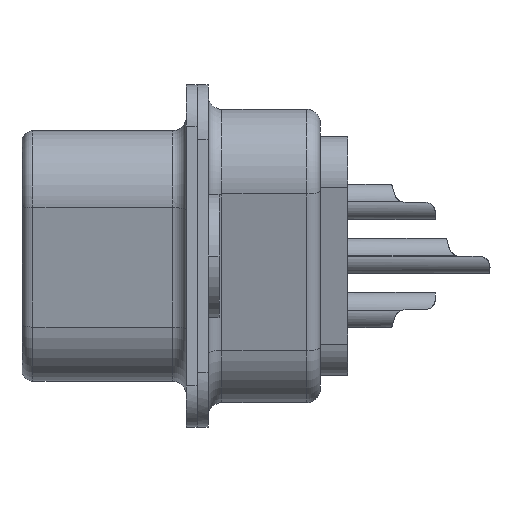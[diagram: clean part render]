
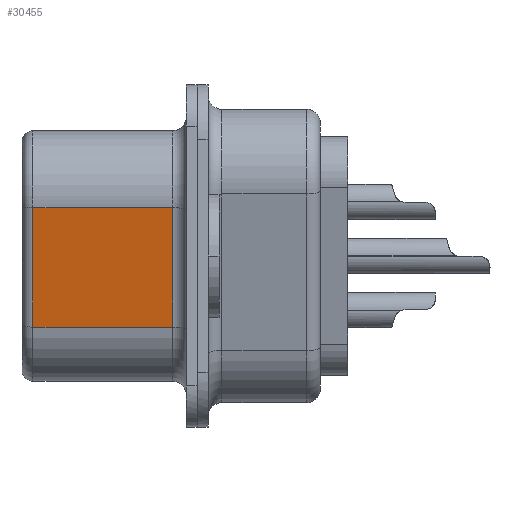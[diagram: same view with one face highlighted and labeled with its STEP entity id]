
A CAD part, left-side view. The second image highlights one B-rep face of the part: STEP entity #30455.
In plain terms, the highlighted planar face has unit normal (-0.985, 0, -0.174).
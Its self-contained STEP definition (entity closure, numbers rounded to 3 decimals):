
#12260=DIRECTION('',(0.174,0.,-0.985));
#12261=VECTOR('',#12260,4.427);
#12262=CARTESIAN_POINT('',(6.671,11.6,
-4.487));
#12263=LINE('',#12262,#12261);
#12279=DIRECTION('',(0.,-1.,0.));
#12280=VECTOR('',#12279,5.1);
#12281=CARTESIAN_POINT('',(7.44,16.7,
-8.847));
#12282=LINE('',#12281,#12280);
#12319=DIRECTION('',(0.174,0.,-0.985));
#12320=VECTOR('',#12319,4.427);
#12321=CARTESIAN_POINT('',(6.671,16.7,
-4.487));
#12322=LINE('',#12321,#12320);
#12377=DIRECTION('',(0.,1.,0.));
#12378=VECTOR('',#12377,5.1);
#12379=CARTESIAN_POINT('',(6.671,11.6,
-4.487));
#12380=LINE('',#12379,#12378);
#14065=CARTESIAN_POINT('',(6.671,11.6,
-4.487));
#14066=VERTEX_POINT('',#14065);
#14067=CARTESIAN_POINT('',(7.44,11.6,
-8.847));
#14068=VERTEX_POINT('',#14067);
#14069=CARTESIAN_POINT('',(7.44,16.7,
-8.847));
#14070=VERTEX_POINT('',#14069);
#14075=CARTESIAN_POINT('',(6.671,16.7,
-4.487));
#14076=VERTEX_POINT('',#14075);
#30444=CARTESIAN_POINT('',(7.056,14.15,
-6.667));
#30445=DIRECTION('',(0.985,0.,0.174));
#30446=DIRECTION('',(0.174,0.,-0.985));
#30447=AXIS2_PLACEMENT_3D('',#30444,#30445,#30446);
#30448=PLANE('',#30447);
#30449=ORIENTED_EDGE('',*,*,#30182,.F.);
#30450=ORIENTED_EDGE('',*,*,#30438,.F.);
#30451=ORIENTED_EDGE('',*,*,#30100,.T.);
#30452=ORIENTED_EDGE('',*,*,#30126,.F.);
#30453=EDGE_LOOP('',(#30449,#30450,#30451,#30452));
#30454=FACE_OUTER_BOUND('',#30453,.F.);
#30100=EDGE_CURVE('',#14066,#14068,#12263,.T.);
#30126=EDGE_CURVE('',#14070,#14068,#12282,.T.);
#30182=EDGE_CURVE('',#14076,#14070,#12322,.T.);
#30438=EDGE_CURVE('',#14066,#14076,#12380,.T.);
#30455=ADVANCED_FACE('',(#30454),#30448,.F.);
